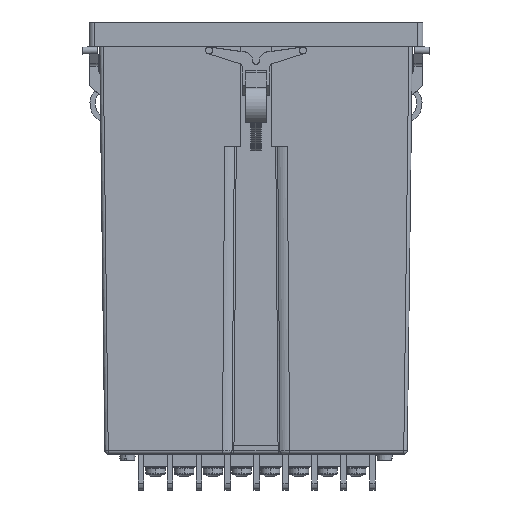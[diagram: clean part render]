
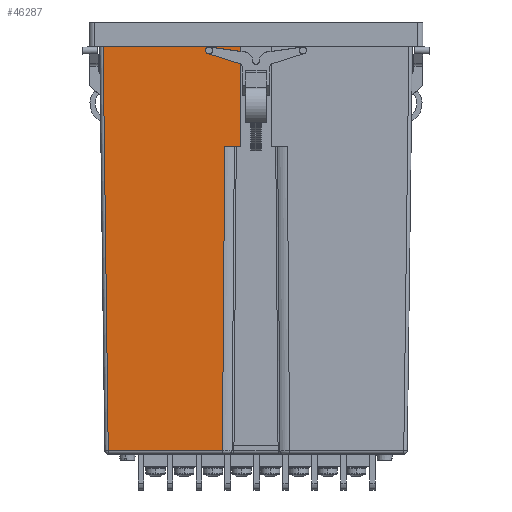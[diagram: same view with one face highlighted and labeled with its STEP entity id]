
A CAD part, front view. The second image highlights one B-rep face of the part: STEP entity #46287.
In plain terms, the highlighted planar face has unit normal (0, -1, -0.013).
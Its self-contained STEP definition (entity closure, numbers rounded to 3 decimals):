
#1524 = CARTESIAN_POINT ( 'NONE',  ( -42.513, -43.512, -121.413 ) ) ;
#2153 = VERTEX_POINT ( 'NONE', #90776 ) ;
#4674 = LINE ( 'NONE', #79636, #35988 ) ;
#4865 = DIRECTION ( 'NONE',  ( 0., -1., -0.013 ) ) ;
#7475 = CARTESIAN_POINT ( 'NONE',  ( -4.46, -44.62, -33.898 ) ) ;
#9850 = EDGE_CURVE ( 'NONE', #70740, #2153, #4674, .T. ) ;
#11692 = EDGE_CURVE ( 'NONE', #48142, #88712, #91639, .T. ) ;
#15685 = VECTOR ( 'NONE', #79127, 1000. ) ;
#18717 = EDGE_LOOP ( 'NONE', ( #74400, #61700, #34593, #36674, #25023, #36737 ) ) ;
#20477 = CARTESIAN_POINT ( 'NONE',  ( 0., -45.042, -0.57 ) ) ;
#20685 = VECTOR ( 'NONE', #76053, 1000. ) ;
#21637 = VERTEX_POINT ( 'NONE', #38291 ) ;
#21786 = CARTESIAN_POINT ( 'NONE',  ( -4.46, -44.62, -33.898 ) ) ;
#22735 = DIRECTION ( 'NONE',  ( 0.001, 0.013, -1. ) ) ;
#24985 = CARTESIAN_POINT ( 'NONE',  ( -44.035, -45.035, -1.127 ) ) ;
#25023 = ORIENTED_EDGE ( 'NONE', *, *, #76040, .F. ) ;
#26806 = LINE ( 'NONE', #64795, #65300 ) ;
#30836 = CARTESIAN_POINT ( 'NONE',  ( -9.673, -43.512, -121.413 ) ) ;
#34593 = ORIENTED_EDGE ( 'NONE', *, *, #9850, .T. ) ;
#35956 = LINE ( 'NONE', #21786, #42150 ) ;
#35988 = VECTOR ( 'NONE', #93257, 1000. ) ;
#36674 = ORIENTED_EDGE ( 'NONE', *, *, #58360, .F. ) ;
#36737 = ORIENTED_EDGE ( 'NONE', *, *, #95119, .T. ) ;
#38160 = EDGE_CURVE ( 'NONE', #88712, #70740, #82391, .T. ) ;
#38291 = CARTESIAN_POINT ( 'NONE',  ( -4.5, -45., -3.9 ) ) ;
#41055 = DIRECTION ( 'NONE',  ( 0.013, 0.013, -1. ) ) ;
#41731 = CARTESIAN_POINT ( 'NONE',  ( 0., -44.62, -33.898 ) ) ;
#42150 = VECTOR ( 'NONE', #22735, 1000. ) ;
#46287 = ADVANCED_FACE ( 'NONE', ( #64789 ), #94390, .T. ) ;
#48142 = VERTEX_POINT ( 'NONE', #57921 ) ;
#49529 = LINE ( 'NONE', #41731, #15685 ) ;
#50216 = DIRECTION ( 'NONE',  ( 0., 0.013, -1. ) ) ;
#57921 = CARTESIAN_POINT ( 'NONE',  ( -44., -45., -3.9 ) ) ;
#58360 = EDGE_CURVE ( 'NONE', #68341, #2153, #49529, .T. ) ;
#59584 = VECTOR ( 'NONE', #41055, 1000. ) ;
#61700 = ORIENTED_EDGE ( 'NONE', *, *, #38160, .T. ) ;
#64789 = FACE_OUTER_BOUND ( 'NONE', #18717, .T. ) ;
#64795 = CARTESIAN_POINT ( 'NONE',  ( 45., -45., -3.9 ) ) ;
#65300 = VECTOR ( 'NONE', #70654, 1000. ) ;
#68341 = VERTEX_POINT ( 'NONE', #7475 ) ;
#70654 = DIRECTION ( 'NONE',  ( -1., 0., 0. ) ) ;
#70740 = VERTEX_POINT ( 'NONE', #95461 ) ;
#74400 = ORIENTED_EDGE ( 'NONE', *, *, #11692, .T. ) ;
#76040 = EDGE_CURVE ( 'NONE', #21637, #68341, #35956, .T. ) ;
#76053 = DIRECTION ( 'NONE',  ( 1., 0., 0. ) ) ;
#77931 = AXIS2_PLACEMENT_3D ( 'NONE', #20477, #4865, #50216 ) ;
#79127 = DIRECTION ( 'NONE',  ( -1., 0., 0. ) ) ;
#79636 = CARTESIAN_POINT ( 'NONE',  ( -9., -44.621, -33.875 ) ) ;
#82391 = LINE ( 'NONE', #30836, #20685 ) ;
#88712 = VERTEX_POINT ( 'NONE', #1524 ) ;
#90776 = CARTESIAN_POINT ( 'NONE',  ( -9., -44.62, -33.898 ) ) ;
#91639 = LINE ( 'NONE', #24985, #59584 ) ;
#93257 = DIRECTION ( 'NONE',  ( 0.008, -0.013, 1. ) ) ;
#94390 = PLANE ( 'NONE',  #77931 ) ;
#95119 = EDGE_CURVE ( 'NONE', #21637, #48142, #26806, .T. ) ;
#95461 = CARTESIAN_POINT ( 'NONE',  ( -9.665, -43.512, -121.413 ) ) ;
